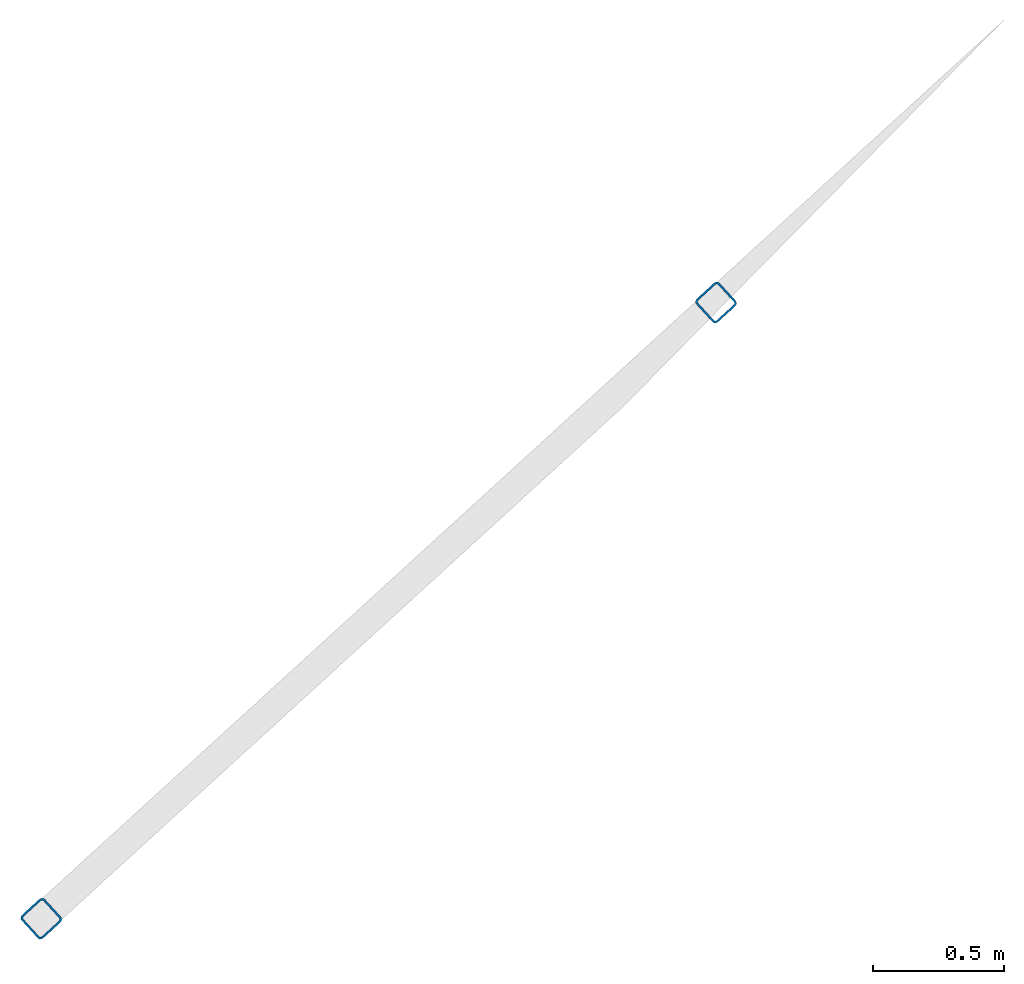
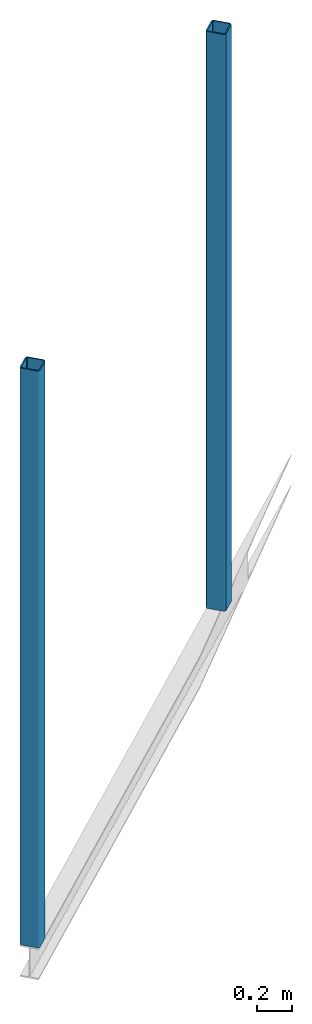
# One storey, part 1 of 2: 2 columns.
"""IFC2X3 building model written with IfcOpenShell, lengths in millimetres."""

from ifc_helpers import new_model, entity, si_unit, converted_unit, derived_unit, direction, frame, frame_2d, origin, origin_with_axes, place, context, subcontext, project, spatial, polyline, circle_curve, parameter, trimmed, segment, composite_curve, outline, extrude, source, transform, mapped, material, type_object, element, save


model = new_model("IFC2X3")

# Units and contexts
model_context = context("Model", 3, precision=0.01, world=origin(), true_north=direction((6.12323399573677e-17, 1.0)))
plan_context = context("Plan", 3, precision=1e-05, world=origin_with_axes())
body_context = subcontext(model_context, "Body", "Model", "MODEL_VIEW")
ifc_project = project(units=[converted_unit("PLANEANGLEUNIT", "DEGREE", entity("IfcPositiveLengthMeasure", 0.0174532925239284), si_unit("PLANEANGLEUNIT", "RADIAN"), dimensions=[0, 0, 0, 0, 0, 0, 0]), si_unit("AREAUNIT", "SQUARE_METRE"), si_unit("LENGTHUNIT", "METRE", prefix="MILLI"), si_unit("MASSUNIT", "GRAM", prefix="KILO"), si_unit("POWERUNIT", "WATT"), si_unit("PRESSUREUNIT", "PASCAL", prefix="KILO"), si_unit("FORCEUNIT", "NEWTON", prefix="KILO"), si_unit("ELECTRICVOLTAGEUNIT", "VOLT"), si_unit("ELECTRICCURRENTUNIT", "AMPERE"), si_unit("THERMODYNAMICTEMPERATUREUNIT", "DEGREE_CELSIUS"), si_unit("TIMEUNIT", "SECOND"), si_unit("VOLUMEUNIT", "CUBIC_METRE"), derived_unit("LINEARVELOCITYUNIT", [(si_unit("LENGTHUNIT", "METRE"), 1), (si_unit("TIMEUNIT", "SECOND"), -1)]), derived_unit("VOLUMETRICFLOWRATEUNIT", [(si_unit("VOLUMEUNIT", "CUBIC_METRE"), 1), (si_unit("TIMEUNIT", "SECOND"), -1)]), derived_unit("THERMALTRANSMITTANCEUNIT", [(si_unit("POWERUNIT", "WATT"), 1), (si_unit("THERMODYNAMICTEMPERATUREUNIT", "KELVIN"), -1), (si_unit("AREAUNIT", "SQUARE_METRE"), -1)]), derived_unit("SOUNDPRESSUREUNIT", [(si_unit("PRESSUREUNIT", "PASCAL"), 1)])], contexts=[model_context, plan_context])

# Site, building, storey
site_placement = place(None, frame((0.0, 0.0, 0.0), z_axis=(0.0, 0.0, 1.0), x_axis=(0.214787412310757, -0.97666082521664, 0.0)))
site = spatial("IfcSite", under=ifc_project, at=site_placement, Name="Default", CompositionType="ELEMENT")
building_placement = place(site_placement, origin_with_axes())
building = spatial("IfcBuilding", under=site, at=building_placement, CompositionType="ELEMENT")
storey_placement = place(building_placement, frame((0.0, 0.0, 9300.0), z_axis=(0.0, 0.0, 1.0), x_axis=(1.0, 0.0, 0.0)))
storey = spatial("IfcBuildingStorey", under=building, at=storey_placement, Name="2. ETASJE", CompositionType="ELEMENT", Elevation=9299.99999999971)

# Columns
ifc_material_1 = material(Name="Stål - S355J")
ifc_material_2 = material(Name="Stål - S355J")
column_type = type_object("IfcColumnType", Name="NO_Column_Steel_Hollow Rectangular:RHS 120x120x8", PredefinedType="COLUMN", material=ifc_material_2)
shared_shape = source(origin(), body_context, "Body", "SweptSolid", [
    extrude(outline(composite_curve([segment(polyline([(-44.0, -60.0), (44.0, -60.0)]), True, "CONTINUOUS"), segment(trimmed(circle_curve(frame_2d((44.0, -44.0), x_axis=(-1.0, 0.0)), 15.9999999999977), [parameter(90.0000000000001)], [parameter(180.0)], True, "PARAMETER"), True, "CONTINUOUS"), segment(polyline([(60.0, -44.0), (60.0, 44.0)]), True, "CONTINUOUS"), segment(trimmed(circle_curve(frame_2d((44.0, 44.0), x_axis=(-1.0, 0.0)), 16.0000000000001), [parameter(180.0)], [parameter(270.0)], True, "PARAMETER"), True, "CONTINUOUS"), segment(polyline([(44.0, 60.0), (-44.0, 60.0)]), True, "CONTINUOUS"), segment(trimmed(circle_curve(frame_2d((-44.0, 44.0), x_axis=(-1.0, 0.0)), 16.0000000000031), [parameter(269.999999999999)], [parameter(360.0)], True, "PARAMETER"), True, "CONTINUOUS"), segment(polyline([(-60.0, 44.0), (-60.0, -44.0)]), True, "CONTINUOUS"), segment(trimmed(circle_curve(frame_2d((-44.0, -44.0), x_axis=(-1.0, 0.0)), 15.9999999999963), [parameter(360.0)], [parameter(89.9999999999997)], True, "PARAMETER"), True, "CONTINUOUS")], self_intersect=False), holes=[composite_curve([segment(trimmed(circle_curve(frame_2d((-44.0, -44.0), x_axis=(-1.0, 0.0)), 7.99999999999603), [parameter(0.0)], [parameter(90.0)], True, "PARAMETER"), False, "CONTINUOUS"), segment(polyline([(-52.0, -44.0), (-52.0, 44.0)]), True, "CONTINUOUS"), segment(trimmed(circle_curve(frame_2d((-44.0, 44.0), x_axis=(-1.0, 0.0)), 7.99999999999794), [parameter(270.0)], [parameter(5.08888749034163e-14)], True, "PARAMETER"), False, "CONTINUOUS"), segment(polyline([(-44.0, 52.0), (44.0, 52.0)]), True, "CONTINUOUS"), segment(trimmed(circle_curve(frame_2d((44.0, 44.0), x_axis=(-1.0, 0.0)), 8.00000000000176), [parameter(180.0)], [parameter(270.0)], True, "PARAMETER"), False, "CONTINUOUS"), segment(polyline([(52.0, 44.0), (52.0, -44.0)]), True, "CONTINUOUS"), segment(trimmed(circle_curve(frame_2d((44.0, -44.0), x_axis=(-1.0, 0.0)), 8.0000000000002), [parameter(90.0000000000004)], [parameter(180.0)], True, "PARAMETER"), False, "CONTINUOUS"), segment(polyline([(44.0, -52.0), (-44.0, -52.0)]), True, "CONTINUOUS")], self_intersect=False)]), frame((0.0, 0.0, 9060.0), z_axis=(0.0, 0.0, 1.0), x_axis=(-1.0, 0.0, 0.0)), (0.0, 0.0, 1.0), 3992.0),
])
for number, where, z_axis, x_axis, name in (
    (1, (-63597.8728076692, 292993.846004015, -9300.0), (0.0, 0.0, 1.0), (0.866025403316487, 0.500000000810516, 0.0), "NO_Column_Steel_Hollow Rectangular:RHS 120x120x8"),
    (2, (-61852.8728045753, 289971.417346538, -9300.0), (0.0, 0.0, 1.0), (0.866025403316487, 0.500000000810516, 0.0), "NO_Column_Steel_Hollow Rectangular:RHS 120x120x8"),
):
    element("IfcColumn", number, at=place(storey_placement, frame(where, z_axis=z_axis, x_axis=x_axis)), inside=storey, type_object=column_type, material=ifc_material_1, Name=name, ObjectType="NO_Column_Steel_Hollow Rectangular:RHS 120x120x8", context=body_context, shape_type="MappedRepresentation", body=[
        mapped(shared_shape, transform((0.0, 0.0, 0.0), scale=1.0)),
    ])

save(model, "model.ifc")
